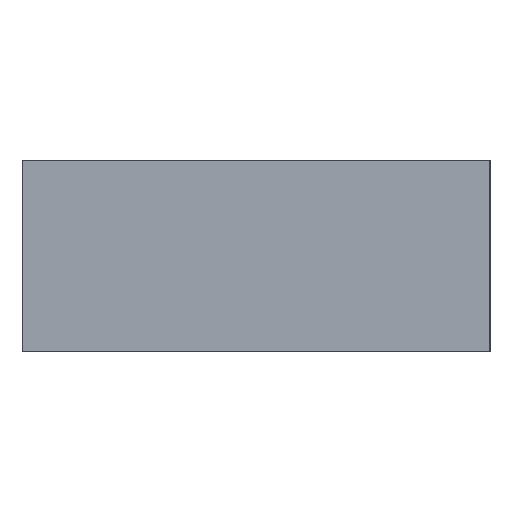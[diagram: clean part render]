
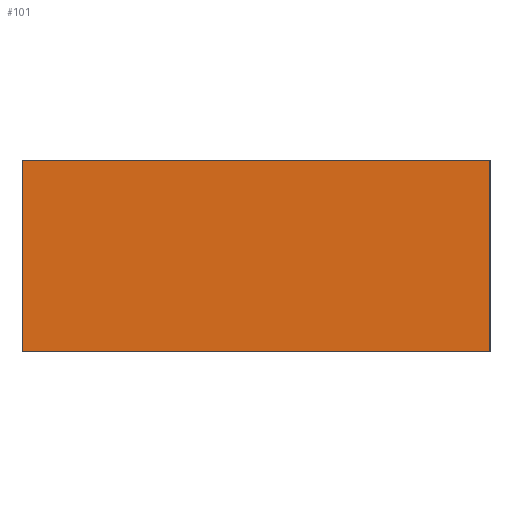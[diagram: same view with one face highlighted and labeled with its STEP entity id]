
A CAD part, left-side view. The second image highlights one B-rep face of the part: STEP entity #101.
In plain terms, the highlighted planar face has unit normal (-1, 0, 0).
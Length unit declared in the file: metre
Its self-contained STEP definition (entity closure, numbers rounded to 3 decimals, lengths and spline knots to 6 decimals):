
#24=ORIENTED_EDGE('',*,*,#38,.T.);
#25=ORIENTED_EDGE('',*,*,#46,.T.);
#26=ORIENTED_EDGE('',*,*,#43,.F.);
#27=ORIENTED_EDGE('',*,*,#47,.F.);
#38=EDGE_CURVE('',#51,#50,#58,.F.);
#43=EDGE_CURVE('',#54,#55,#63,.F.);
#46=EDGE_CURVE('',#50,#55,#66,.T.);
#47=EDGE_CURVE('',#51,#54,#67,.T.);
#50=VERTEX_POINT('',#147);
#51=VERTEX_POINT('',#149);
#54=VERTEX_POINT('',#159);
#55=VERTEX_POINT('',#160);
#58=LINE('',#148,#70);
#63=LINE('',#158,#75);
#66=LINE('',#164,#78);
#67=LINE('',#165,#79);
#70=VECTOR('',#121,1.);
#75=VECTOR('',#130,1.);
#78=VECTOR('',#135,1.);
#79=VECTOR('',#136,1.);
#83=EDGE_LOOP('',(#24,#25,#26,#27));
#89=FACE_BOUND('',#83,.T.);
#95=PLANE('',#112);
#101=ADVANCED_FACE('',(#89),#95,.T.);
#112=AXIS2_PLACEMENT_3D('',#163,#133,#134);
#121=DIRECTION('',(0.,0.,1.));
#130=DIRECTION('',(0.,0.,1.));
#133=DIRECTION('',(-1.,0.,0.));
#134=DIRECTION('',(0.,-1.,0.));
#135=DIRECTION('',(0.,-1.,0.));
#136=DIRECTION('',(0.,-1.,0.));
#147=CARTESIAN_POINT('',(-0.013923,0.005578,-0.03005));
#148=CARTESIAN_POINT('',(-0.013923,0.005578,-0.03));
#149=CARTESIAN_POINT('',(-0.013923,0.005578,-0.03));
#158=CARTESIAN_POINT('',(-0.013923,0.005455,-0.03));
#159=CARTESIAN_POINT('',(-0.013923,0.005455,-0.03));
#160=CARTESIAN_POINT('',(-0.013923,0.005455,-0.03005));
#163=CARTESIAN_POINT('',(-0.013923,0.005578,-0.03));
#164=CARTESIAN_POINT('',(-0.013923,0.005578,-0.03005));
#165=CARTESIAN_POINT('',(-0.013923,0.005517,-0.03));
